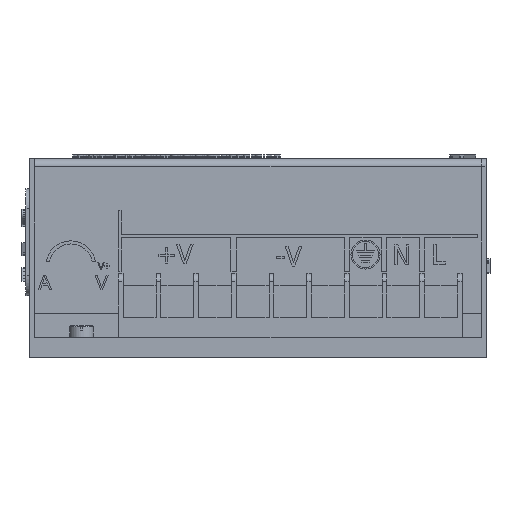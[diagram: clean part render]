
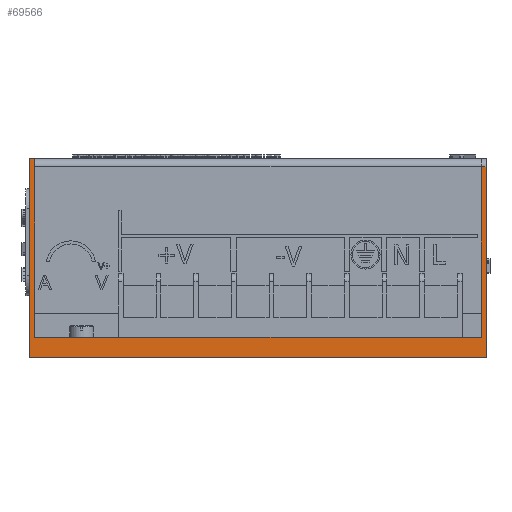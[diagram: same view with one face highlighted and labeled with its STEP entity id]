
A CAD part, left-side view. The second image highlights one B-rep face of the part: STEP entity #69566.
In plain terms, the highlighted planar face has unit normal (-1, 0, 0).
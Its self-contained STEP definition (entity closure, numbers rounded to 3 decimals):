
#8102=FACE_OUTER_BOUND('',#11998,.T.);
#11998=EDGE_LOOP('',(#52184,#52185,#52186,#52187,#52188,#52189,#52190,#52191));
#16205=LINE('',#98545,#22714);
#16575=LINE('',#99493,#23084);
#17219=LINE('',#101296,#23728);
#17220=LINE('',#101299,#23729);
#17221=LINE('',#101301,#23730);
#17222=LINE('',#101303,#23731);
#17223=LINE('',#101304,#23732);
#17224=LINE('',#101305,#23733);
#22714=VECTOR('',#77427,48.);
#23084=VECTOR('',#78207,50.);
#23728=VECTOR('',#80007,1.2);
#23729=VECTOR('',#80010,43.);
#23730=VECTOR('',#80011,112.6);
#23731=VECTOR('',#80012,45.);
#23732=VECTOR('',#80013,1.2);
#23733=VECTOR('',#80014,115.);
#29297=VERTEX_POINT('',#98542);
#29298=VERTEX_POINT('',#98544);
#29670=VERTEX_POINT('',#99490);
#29671=VERTEX_POINT('',#99492);
#30252=VERTEX_POINT('',#101294);
#30253=VERTEX_POINT('',#101298);
#30254=VERTEX_POINT('',#101300);
#30255=VERTEX_POINT('',#101302);
#37133=EDGE_CURVE('',#29298,#29297,#16205,.T.);
#37626=EDGE_CURVE('',#29670,#29671,#16575,.T.);
#38546=EDGE_CURVE('',#30252,#29297,#17219,.T.);
#38547=EDGE_CURVE('',#30252,#30253,#17220,.T.);
#38548=EDGE_CURVE('',#30253,#30254,#17221,.T.);
#38549=EDGE_CURVE('',#30254,#30255,#17222,.T.);
#38550=EDGE_CURVE('',#29671,#30255,#17223,.T.);
#38551=EDGE_CURVE('',#29670,#29298,#17224,.T.);
#52184=ORIENTED_EDGE('',*,*,#38546,.F.);
#52185=ORIENTED_EDGE('',*,*,#38547,.T.);
#52186=ORIENTED_EDGE('',*,*,#38548,.T.);
#52187=ORIENTED_EDGE('',*,*,#38549,.T.);
#52188=ORIENTED_EDGE('',*,*,#38550,.F.);
#52189=ORIENTED_EDGE('',*,*,#37626,.F.);
#52190=ORIENTED_EDGE('',*,*,#38551,.T.);
#52191=ORIENTED_EDGE('',*,*,#37133,.T.);
#67124=PLANE('',#73657);
#69566=ADVANCED_FACE('',(#8102),#67124,.T.);
#73657=AXIS2_PLACEMENT_3D('',#101297,#80008,#80009);
#77427=DIRECTION('',(0.,0.,1.));
#78207=DIRECTION('',(0.,0.,1.));
#80007=DIRECTION('',(0.,-1.,0.));
#80008=DIRECTION('center_axis',(-1.,0.,0.));
#80009=DIRECTION('ref_axis',(0.,-1.,0.));
#80010=DIRECTION('',(0.,0.,-1.));
#80011=DIRECTION('',(0.,1.,0.));
#80012=DIRECTION('',(0.,0.,1.));
#80013=DIRECTION('',(0.,-1.,0.));
#80014=DIRECTION('',(0.,-1.,0.));
#98542=CARTESIAN_POINT('',(-107.5,-57.5,48.));
#98544=CARTESIAN_POINT('',(-107.5,-57.5,0.));
#98545=CARTESIAN_POINT('',(-107.5,-57.5,0.));
#99490=CARTESIAN_POINT('',(-107.5,57.5,0.));
#99492=CARTESIAN_POINT('',(-107.5,57.5,50.));
#99493=CARTESIAN_POINT('',(-107.5,57.5,0.));
#101294=CARTESIAN_POINT('',(-107.5,-56.3,48.));
#101296=CARTESIAN_POINT('',(-107.5,28.75,48.));
#101297=CARTESIAN_POINT('Origin',(-107.5,57.5,0.));
#101298=CARTESIAN_POINT('',(-107.5,-56.3,5.));
#101299=CARTESIAN_POINT('',(-107.5,-56.3,25.));
#101300=CARTESIAN_POINT('',(-107.5,56.3,5.));
#101301=CARTESIAN_POINT('',(-107.5,0.6,5.));
#101302=CARTESIAN_POINT('',(-107.5,56.3,50.));
#101303=CARTESIAN_POINT('',(-107.5,56.3,2.5));
#101304=CARTESIAN_POINT('',(-107.5,57.5,50.));
#101305=CARTESIAN_POINT('',(-107.5,57.5,0.));
